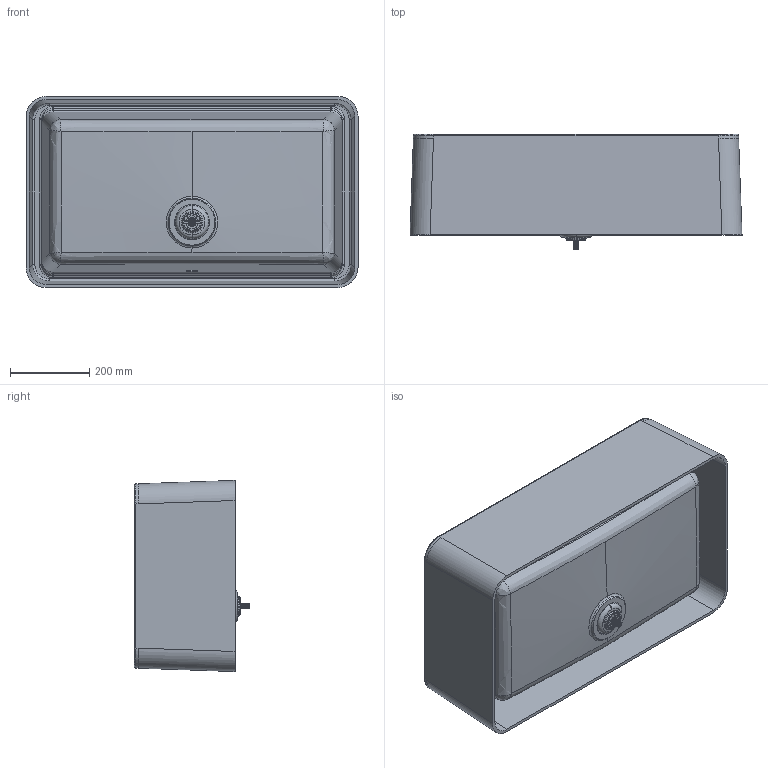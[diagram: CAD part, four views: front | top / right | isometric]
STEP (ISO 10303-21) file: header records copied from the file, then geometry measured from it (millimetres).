
FILE_DESCRIPTION (( 'STEP AP203' ), '1' );
FILE_NAME ('3d_globe_910.STEP', '2021-06-04T09:53:16', ( '' ), ( '' ), 'SwSTEP 2.0', 'SolidWorks 2020', '' );
FILE_SCHEMA (( 'CONFIG_CONTROL_DESIGN' ));
Length unit declared in the file: millimetre
Products named in the file (4): 3d_globe_910; PilettaAcciaio; GLOBE910; PilettaCestelloAcciaio
Assembly tree (3 placements, depth 2):
  3d_globe_910
    GLOBE910
    PilettaAcciaio
    PilettaCestelloAcciaio
Bounding box: 838.2 x 290.82 x 482.6 mm (x, y, z)
Volume: 11600679.1 mm3; surface area: 2863442.9 mm2
Topology: 4 solids, 5 shells, 602 faces, 1566 edges, 937 vertices
Faces by surface type: cylinder 239, plane 143, torus 97, bspline 82, cone 33, sphere 8
Entity records: 24833 total; most frequent: CARTESIAN_POINT 10336, ORIENTED_EDGE 3100, DIRECTION 2954, EDGE_CURVE 1550, AXIS2_PLACEMENT_3D 1230, VERTEX_POINT 937, CIRCLE 704, EDGE_LOOP 639
